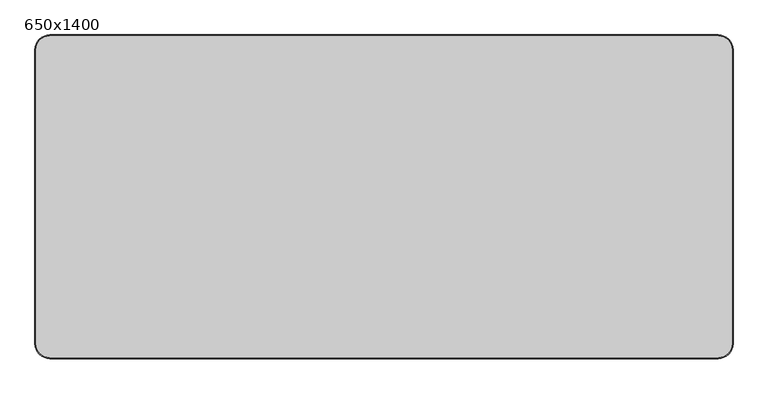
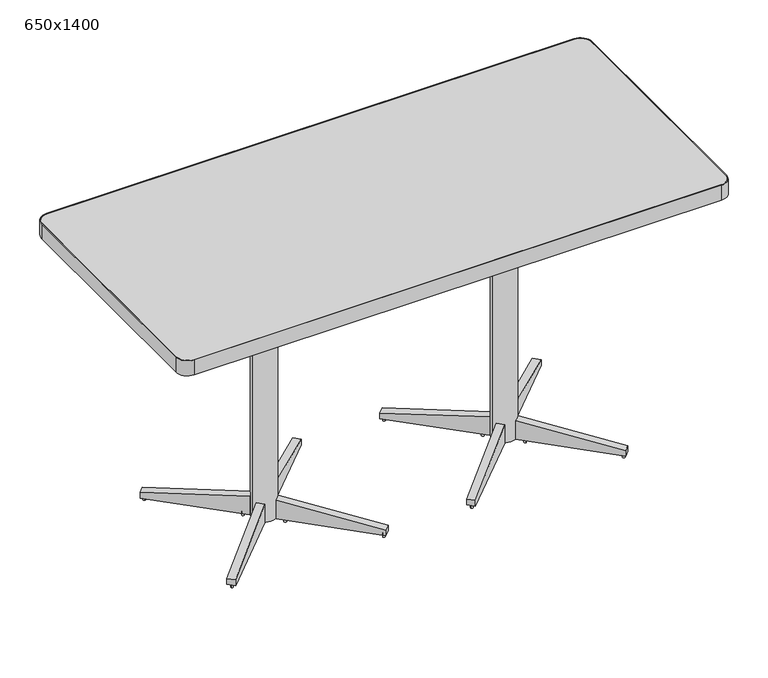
"""IFC4 building model written with IfcOpenShell, lengths in millimetres: furniture geometry, TN.RES.Table02 : 650x1400."""

from ifc_helpers import new_model, si_unit, point, frame, frame_2d, origin, origin_with_axes, place, context, project, spatial, polyline, circle_curve, trimmed, segment, composite_curve, outline, extrude, source, transform, mapped, element, save
from ifc_brep_helpers import plane_surface, cylinder_surface, advanced_brep


def furniture_650x1400_aecb3e28(model_context):
    return source(origin(), model_context, "Body", "SolidModel", [
        extrude(outline(composite_curve([segment(polyline([(-670.0, 325.0), (670.0, 325.0)]), True, "CONTINUOUS"), segment(trimmed(circle_curve(frame_2d((670.0, 295.0)), 30.0), [point((670.0, 325.0))], [point((700.0, 295.0))], False, "CARTESIAN"), True, "CONTINUOUS"), segment(polyline([(700.0, 295.0), (700.0, -295.0)]), True, "CONTINUOUS"), segment(trimmed(circle_curve(frame_2d((670.0, -295.0)), 30.0), [point((700.0, -295.0))], [point((670.0, -325.0))], False, "CARTESIAN"), True, "CONTINUOUS"), segment(polyline([(670.0, -325.0), (-670.0, -325.0)]), True, "CONTINUOUS"), segment(trimmed(circle_curve(frame_2d((-670.0, -295.0)), 30.0), [point((-670.0, -325.0))], [point((-700.0, -295.0))], False, "CARTESIAN"), True, "CONTINUOUS"), segment(polyline([(-700.0, -295.0), (-700.0, 295.0)]), True, "CONTINUOUS"), segment(trimmed(circle_curve(frame_2d((-670.0, 295.0)), 30.0), [point((-700.0, 295.0))], [point((-670.0, 325.0))], False, "CARTESIAN"), True, "CONTINUOUS")], self_intersect=False), holes=[composite_curve([segment(polyline([(698.0, -295.0), (698.0, 295.0)]), True, "CONTINUOUS"), segment(trimmed(circle_curve(frame_2d((670.0, 295.0)), 28.0), [point((698.0, 295.0))], [point((670.0, 323.0))], True, "CARTESIAN"), True, "CONTINUOUS"), segment(polyline([(670.0, 323.0), (-670.0, 323.0)]), True, "CONTINUOUS"), segment(trimmed(circle_curve(frame_2d((-670.0, 295.0)), 28.0), [point((-670.0, 323.0))], [point((-698.0, 295.0))], True, "CARTESIAN"), True, "CONTINUOUS"), segment(polyline([(-698.0, 295.0), (-698.0, -295.0)]), True, "CONTINUOUS"), segment(trimmed(circle_curve(frame_2d((-670.0, -295.0)), 28.0), [point((-698.0, -295.0))], [point((-670.0, -323.0))], True, "CARTESIAN"), True, "CONTINUOUS"), segment(polyline([(-670.0, -323.0), (670.0, -323.0)]), True, "CONTINUOUS"), segment(trimmed(circle_curve(frame_2d((670.0, -295.0)), 28.0), [point((670.0, -323.0))], [point((698.0, -295.0))], True, "CARTESIAN"), True, "CONTINUOUS")], self_intersect=False)]), frame((0.0, 0.0, 710.0), z_axis=(0.0, 0.0, 1.0), x_axis=(1.0, 0.0, 0.0)), (0.0, 0.0, 1.0), 40.0),
        extrude(outline(composite_curve([segment(trimmed(circle_curve(frame_2d((111.7774686, 193.2225314)), 2.9948705), [point((109.6597754, 195.3402246))], [point((113.8951618, 191.1048382))], False, "CARTESIAN"), True, "CONTINUOUS"), segment(trimmed(circle_curve(frame_2d((111.7774686, 193.2225314)), 2.9948705), [point((113.8951618, 191.1048382))], [point((109.6597754, 195.3402246))], False, "CARTESIAN"), True, "CONTINUOUS")], self_intersect=False)), origin_with_axes(), (0.0, 0.0, 1.0), 10.0),
        extrude(outline(composite_curve([segment(trimmed(circle_curve(frame_2d((270.8764944, 34.1235056)), 2.9948705), [point((268.7588012, 36.2411988))], [point((272.9941876, 32.0058124))], False, "CARTESIAN"), True, "CONTINUOUS"), segment(trimmed(circle_curve(frame_2d((270.8764944, 34.1235056)), 2.9948705), [point((272.9941876, 32.0058124))], [point((268.7588012, 36.2411988))], False, "CARTESIAN"), True, "CONTINUOUS")], self_intersect=False)), origin_with_axes(), (0.0, 0.0, 1.0), 10.0),
        extrude(outline(polyline([(0.0, 0.0), (252.4381112, 0.0), (254.5178289, -14.8551262), (6.9323922, -49.5170873), (0.0, 0.0)])), frame((276.7157288, 14.1421356, 60.0), z_axis=(0.7071067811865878, 0.7071067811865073, 0.0), x_axis=(-0.7002773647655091, 0.7002773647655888, -0.13864784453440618)), (0.0, 0.0, 1.0), 20.0),
        extrude(outline(composite_curve([segment(trimmed(circle_curve(frame_2d((498.2225314, 193.2225314)), 2.9948705), [point((496.1048382, 191.1048382))], [point((500.3402246, 195.3402246))], False, "CARTESIAN"), True, "CONTINUOUS"), segment(trimmed(circle_curve(frame_2d((498.2225314, 193.2225314)), 2.9948705), [point((500.3402246, 195.3402246))], [point((496.1048382, 191.1048382))], False, "CARTESIAN"), True, "CONTINUOUS")], self_intersect=False)), origin_with_axes(), (0.0, 0.0, 1.0), 10.0),
        extrude(outline(composite_curve([segment(trimmed(circle_curve(frame_2d((339.1235056, 34.1235056)), 2.9948705), [point((337.0058124, 32.0058124))], [point((341.2411988, 36.2411988))], False, "CARTESIAN"), True, "CONTINUOUS"), segment(trimmed(circle_curve(frame_2d((339.1235056, 34.1235056)), 2.9948705), [point((341.2411988, 36.2411988))], [point((337.0058124, 32.0058124))], False, "CARTESIAN"), True, "CONTINUOUS")], self_intersect=False)), origin_with_axes(), (0.0, 0.0, 1.0), 10.0),
        extrude(outline(polyline([(-60.0, 0.0), (-10.0, 0.0), (-10.0, -250.0), (-25.0, -250.0), (-60.0, 0.0)])), frame((333.2842712, 14.1421356, 0.0), z_axis=(-0.7071067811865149, 0.7071067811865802, 0.0), x_axis=(0.0, 0.0, -1.0)), (0.0, 0.0, 1.0), 20.0),
        extrude(outline(composite_curve([segment(trimmed(circle_curve(frame_2d((111.7774686, -193.2225314)), 2.9948705), [point((109.6597754, -195.3402246))], [point((113.8951618, -191.1048382))], False, "CARTESIAN"), True, "CONTINUOUS"), segment(trimmed(circle_curve(frame_2d((111.7774686, -193.2225314)), 2.9948705), [point((113.8951618, -191.1048382))], [point((109.6597754, -195.3402246))], False, "CARTESIAN"), True, "CONTINUOUS")], self_intersect=False)), origin_with_axes(), (0.0, 0.0, 1.0), 10.0),
        extrude(outline(composite_curve([segment(trimmed(circle_curve(frame_2d((270.8764944, -34.1235056)), 2.9948705), [point((268.7588012, -36.2411988))], [point((272.9941876, -32.0058124))], False, "CARTESIAN"), True, "CONTINUOUS"), segment(trimmed(circle_curve(frame_2d((270.8764944, -34.1235056)), 2.9948705), [point((272.9941876, -32.0058124))], [point((268.7588012, -36.2411988))], False, "CARTESIAN"), True, "CONTINUOUS")], self_intersect=False)), origin_with_axes(), (0.0, 0.0, 1.0), 10.0),
        extrude(outline(polyline([(0.0, 0.0), (252.4381112, 0.0), (254.5178289, -14.8551262), (6.9323922, -49.5170873), (0.0, 0.0)])), frame((290.8578644, -28.2842712, 60.0), z_axis=(-0.707106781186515, 0.7071067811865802, 0.0), x_axis=(-0.7002773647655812, -0.7002773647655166, -0.13864784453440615)), (0.0, 0.0, 1.0), 20.0),
        extrude(outline(composite_curve([segment(trimmed(circle_curve(frame_2d((498.2225314, -193.2225314)), 2.9948705), [point((500.3402246, -195.3402246))], [point((496.1048382, -191.1048382))], False, "CARTESIAN"), True, "CONTINUOUS"), segment(trimmed(circle_curve(frame_2d((498.2225314, -193.2225314)), 2.9948705), [point((496.1048382, -191.1048382))], [point((500.3402246, -195.3402246))], False, "CARTESIAN"), True, "CONTINUOUS")], self_intersect=False)), origin_with_axes(), (0.0, 0.0, 1.0), 10.0),
        extrude(outline(composite_curve([segment(trimmed(circle_curve(frame_2d((339.1235056, -34.1235056)), 2.9948705), [point((341.2411988, -36.2411988))], [point((337.0058124, -32.0058124))], False, "CARTESIAN"), True, "CONTINUOUS"), segment(trimmed(circle_curve(frame_2d((339.1235056, -34.1235056)), 2.9948705), [point((337.0058124, -32.0058124))], [point((341.2411988, -36.2411988))], False, "CARTESIAN"), True, "CONTINUOUS")], self_intersect=False)), origin_with_axes(), (0.0, 0.0, 1.0), 10.0),
        extrude(outline(polyline([(0.0, 0.0), (-6.9323922, -49.5170873), (-254.5178289, -14.8551262), (-252.4381112, 0.0), (0.0, 0.0)])), frame((319.1421356, -28.2842712, 60.0), z_axis=(0.7071067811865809, 0.7071067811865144, 0.0), x_axis=(-0.700277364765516, 0.7002773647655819, 0.13864784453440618)), (0.0, 0.0, 1.0), 20.0),
        advanced_brep(
        [(335.0, 0.0, 10.0), (275.0, 0.0, 10.0), (275.0, 0.0, 710.0), (335.0, 0.0, 710.0), (305.0, 0.0, 10.0), (305.0, 0.0, 710.0)],
        [
            (0, 1, circle_curve(frame((305.0, 0.0, 10.0), z_axis=(0.0, 0.0, 1.0), x_axis=(-1.0, 0.0, 0.0)), 30.0)),
            (1, 2),
            (2, 3, circle_curve(frame((305.0, 0.0, 710.0), z_axis=(0.0, 0.0, -1.0), x_axis=(-1.0, 0.0, 0.0)), 30.0)),
            (3, 0),
            (1, 0, circle_curve(frame((305.0, 0.0, 10.0), z_axis=(0.0, 0.0, 1.0), x_axis=(-1.0, 0.0, 0.0)), 30.0)),
            (3, 2, circle_curve(frame((305.0, 0.0, 710.0), z_axis=(0.0, 0.0, -1.0), x_axis=(-1.0, 0.0, 0.0)), 30.0)),
            (4, 1),
            (0, 4),
            (2, 5),
            (5, 3),
        ],
        [
            cylinder_surface(frame((305.0, 0.0, 790.0), z_axis=(0.0, 0.0, -1.0), x_axis=(-1.0, 0.0, 0.0)), 30.0),
            plane_surface(frame((305.0, 0.0, 10.0), z_axis=(0.0, 0.0, -1.0), x_axis=(-1.0, 0.0, 0.0))),
            plane_surface(frame((305.0, 0.0, 710.0), z_axis=(0.0, 0.0, 1.0), x_axis=(-1.0, 0.0, 0.0))),
        ],
        [
            (0, [[1, 2, 3, 4]]),
            (0, [[5, -4, 6, -2]]),
            (1, [[7, -1, 8]]),
            (1, [[-8, -5, -7]]),
            (2, [[-3, 9, 10]]),
            (2, [[-6, -10, -9]]),
        ],
    ),
        extrude(outline(composite_curve([segment(trimmed(circle_curve(frame_2d((-498.2225314, 193.2225314)), 2.9948705), [point((-500.3402246, 195.3402246))], [point((-496.1048382, 191.1048382))], False, "CARTESIAN"), True, "CONTINUOUS"), segment(trimmed(circle_curve(frame_2d((-498.2225314, 193.2225314)), 2.9948705), [point((-496.1048382, 191.1048382))], [point((-500.3402246, 195.3402246))], False, "CARTESIAN"), True, "CONTINUOUS")], self_intersect=False)), origin_with_axes(), (0.0, 0.0, 1.0), 10.0),
        extrude(outline(composite_curve([segment(trimmed(circle_curve(frame_2d((-339.1235056, 34.1235056)), 2.9948705), [point((-341.2411988, 36.2411988))], [point((-337.0058124, 32.0058124))], False, "CARTESIAN"), True, "CONTINUOUS"), segment(trimmed(circle_curve(frame_2d((-339.1235056, 34.1235056)), 2.9948705), [point((-337.0058124, 32.0058124))], [point((-341.2411988, 36.2411988))], False, "CARTESIAN"), True, "CONTINUOUS")], self_intersect=False)), origin_with_axes(), (0.0, 0.0, 1.0), 10.0),
        extrude(outline(polyline([(0.0, 0.0), (252.4381112, 0.0), (254.5178289, -14.8551262), (6.9323922, -49.5170873), (0.0, 0.0)])), frame((-333.2842712, 14.1421356, 60.0), z_axis=(0.7071067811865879, 0.7071067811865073, 0.0), x_axis=(-0.700277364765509, 0.7002773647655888, -0.13864784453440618)), (0.0, 0.0, 1.0), 20.0),
        extrude(outline(composite_curve([segment(trimmed(circle_curve(frame_2d((-111.7774686, 193.2225314)), 2.9948705), [point((-113.8951618, 191.1048382))], [point((-109.6597754, 195.3402246))], False, "CARTESIAN"), True, "CONTINUOUS"), segment(trimmed(circle_curve(frame_2d((-111.7774686, 193.2225314)), 2.9948705), [point((-109.6597754, 195.3402246))], [point((-113.8951618, 191.1048382))], False, "CARTESIAN"), True, "CONTINUOUS")], self_intersect=False)), origin_with_axes(), (0.0, 0.0, 1.0), 10.0),
        extrude(outline(composite_curve([segment(trimmed(circle_curve(frame_2d((-270.8764944, 34.1235056)), 2.9948705), [point((-272.9941876, 32.0058124))], [point((-268.7588012, 36.2411988))], False, "CARTESIAN"), True, "CONTINUOUS"), segment(trimmed(circle_curve(frame_2d((-270.8764944, 34.1235056)), 2.9948705), [point((-268.7588012, 36.2411988))], [point((-272.9941876, 32.0058124))], False, "CARTESIAN"), True, "CONTINUOUS")], self_intersect=False)), origin_with_axes(), (0.0, 0.0, 1.0), 10.0),
        extrude(outline(polyline([(-60.0, 0.0), (-10.0, 0.0), (-10.0, -250.0), (-25.0, -250.0), (-60.0, 0.0)])), frame((-276.7157288, 14.1421356, 0.0), z_axis=(-0.7071067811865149, 0.7071067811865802, 0.0), x_axis=(0.0, 0.0, -1.0)), (0.0, 0.0, 1.0), 20.0),
        extrude(outline(composite_curve([segment(trimmed(circle_curve(frame_2d((-498.2225314, -193.2225314)), 2.9948705), [point((-500.3402246, -195.3402246))], [point((-496.1048382, -191.1048382))], False, "CARTESIAN"), True, "CONTINUOUS"), segment(trimmed(circle_curve(frame_2d((-498.2225314, -193.2225314)), 2.9948705), [point((-496.1048382, -191.1048382))], [point((-500.3402246, -195.3402246))], False, "CARTESIAN"), True, "CONTINUOUS")], self_intersect=False)), origin_with_axes(), (0.0, 0.0, 1.0), 10.0),
        extrude(outline(composite_curve([segment(trimmed(circle_curve(frame_2d((-339.1235056, -34.1235056)), 2.9948705), [point((-341.2411988, -36.2411988))], [point((-337.0058124, -32.0058124))], False, "CARTESIAN"), True, "CONTINUOUS"), segment(trimmed(circle_curve(frame_2d((-339.1235056, -34.1235056)), 2.9948705), [point((-337.0058124, -32.0058124))], [point((-341.2411988, -36.2411988))], False, "CARTESIAN"), True, "CONTINUOUS")], self_intersect=False)), origin_with_axes(), (0.0, 0.0, 1.0), 10.0),
        extrude(outline(polyline([(0.0, 0.0), (252.4381112, 0.0), (254.5178289, -14.8551262), (6.9323922, -49.5170873), (0.0, 0.0)])), frame((-319.1421356, -28.2842712, 60.0), z_axis=(-0.7071067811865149, 0.7071067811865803, 0.0), x_axis=(-0.7002773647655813, -0.7002773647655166, -0.13864784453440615)), (0.0, 0.0, 1.0), 20.0),
        extrude(outline(composite_curve([segment(trimmed(circle_curve(frame_2d((-111.7774686, -193.2225314)), 2.9948705), [point((-109.6597754, -195.3402246))], [point((-113.8951618, -191.1048382))], False, "CARTESIAN"), True, "CONTINUOUS"), segment(trimmed(circle_curve(frame_2d((-111.7774686, -193.2225314)), 2.9948705), [point((-113.8951618, -191.1048382))], [point((-109.6597754, -195.3402246))], False, "CARTESIAN"), True, "CONTINUOUS")], self_intersect=False)), origin_with_axes(), (0.0, 0.0, 1.0), 10.0),
        extrude(outline(composite_curve([segment(trimmed(circle_curve(frame_2d((-270.8764944, -34.1235056)), 2.9948705), [point((-268.7588012, -36.2411988))], [point((-272.9941876, -32.0058124))], False, "CARTESIAN"), True, "CONTINUOUS"), segment(trimmed(circle_curve(frame_2d((-270.8764944, -34.1235056)), 2.9948705), [point((-272.9941876, -32.0058124))], [point((-268.7588012, -36.2411988))], False, "CARTESIAN"), True, "CONTINUOUS")], self_intersect=False)), origin_with_axes(), (0.0, 0.0, 1.0), 10.0),
        extrude(outline(polyline([(0.0, 0.0), (-6.9323922, -49.5170873), (-254.5178289, -14.8551262), (-252.4381112, 0.0), (0.0, 0.0)])), frame((-290.8578644, -28.2842712, 60.0), z_axis=(0.7071067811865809, 0.7071067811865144, 0.0), x_axis=(-0.700277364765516, 0.7002773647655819, 0.13864784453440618)), (0.0, 0.0, 1.0), 20.0),
        advanced_brep(
        [(-275.0, 0.0, 10.0), (-335.0, 0.0, 10.0), (-335.0, 0.0, 710.0), (-275.0, 0.0, 710.0), (-305.0, 0.0, 10.0), (-305.0, 0.0, 710.0)],
        [
            (0, 1, circle_curve(frame((-305.0, 0.0, 10.0), z_axis=(0.0, 0.0, 1.0), x_axis=(-1.0, 0.0, 0.0)), 30.0)),
            (1, 2),
            (2, 3, circle_curve(frame((-305.0, 0.0, 710.0), z_axis=(0.0, 0.0, -1.0), x_axis=(-1.0, 0.0, 0.0)), 30.0)),
            (3, 0),
            (1, 0, circle_curve(frame((-305.0, 0.0, 10.0), z_axis=(0.0, 0.0, 1.0), x_axis=(-1.0, 0.0, 0.0)), 30.0)),
            (3, 2, circle_curve(frame((-305.0, 0.0, 710.0), z_axis=(0.0, 0.0, -1.0), x_axis=(-1.0, 0.0, 0.0)), 30.0)),
            (4, 1),
            (0, 4),
            (2, 5),
            (5, 3),
        ],
        [
            cylinder_surface(frame((-305.0, 0.0, 790.0), z_axis=(0.0, 0.0, -1.0), x_axis=(-1.0, 0.0, 0.0)), 30.0),
            plane_surface(frame((-305.0, 0.0, 10.0), z_axis=(0.0, 0.0, -1.0), x_axis=(-1.0, 0.0, 0.0))),
            plane_surface(frame((-305.0, 0.0, 710.0), z_axis=(0.0, 0.0, 1.0), x_axis=(-1.0, 0.0, 0.0))),
        ],
        [
            (0, [[1, 2, 3, 4]]),
            (0, [[5, -4, 6, -2]]),
            (1, [[7, -1, 8]]),
            (1, [[-8, -5, -7]]),
            (2, [[-3, 9, 10]]),
            (2, [[-6, -10, -9]]),
        ],
    ),
        extrude(outline(composite_curve([segment(trimmed(circle_curve(frame_2d((-670.0, 295.0)), 28.0), [point((-698.0, 295.0))], [point((-670.0, 323.0))], False, "CARTESIAN"), True, "CONTINUOUS"), segment(polyline([(-670.0, 323.0), (670.0, 323.0)]), True, "CONTINUOUS"), segment(trimmed(circle_curve(frame_2d((670.0, 295.0)), 28.0), [point((670.0, 323.0))], [point((698.0, 295.0))], False, "CARTESIAN"), True, "CONTINUOUS"), segment(polyline([(698.0, 295.0), (698.0, -295.0)]), True, "CONTINUOUS"), segment(trimmed(circle_curve(frame_2d((670.0, -295.0)), 28.0), [point((698.0, -295.0))], [point((670.0, -323.0))], False, "CARTESIAN"), True, "CONTINUOUS"), segment(polyline([(670.0, -323.0), (-670.0, -323.0)]), True, "CONTINUOUS"), segment(trimmed(circle_curve(frame_2d((-670.0, -295.0)), 28.0), [point((-670.0, -323.0))], [point((-698.0, -295.0))], False, "CARTESIAN"), True, "CONTINUOUS"), segment(polyline([(-698.0, -295.0), (-698.0, 295.0)]), True, "CONTINUOUS")], self_intersect=False)), frame((0.0, 0.0, 710.0), z_axis=(0.0, 0.0, 1.0), x_axis=(1.0, 0.0, 0.0)), (0.0, 0.0, 1.0), 40.0),
    ])


if __name__ == "__main__":
    model = new_model("IFC4")
    model_context = context("Model", 3, world=origin())
    ifc_project = project(units=[si_unit("LENGTHUNIT", "METRE", prefix="MILLI")], contexts=[model_context])
    site = spatial("IfcSite", under=ifc_project)
    building = spatial("IfcBuilding", under=site)
    placement = place(None, origin())
    furniture_650x1400_shape = furniture_650x1400_aecb3e28(model_context)
    element("IfcFurniture", 1, ObjectType="TN.RES.Table02 : 650x1400", at=placement, inside=building, context=model_context, shape_type="MappedRepresentation", body=[
        mapped(furniture_650x1400_shape, transform((0.0, 0.0, 0.0), x_axis=(1.0, 0.0, 0.0), y_axis=(0.0, 1.0, 0.0), z_axis=(0.0, 0.0, 1.0))),
    ])
    save(model, "model.ifc")
